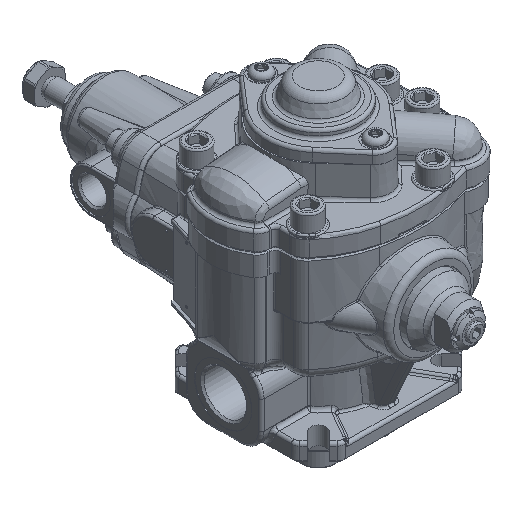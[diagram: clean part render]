
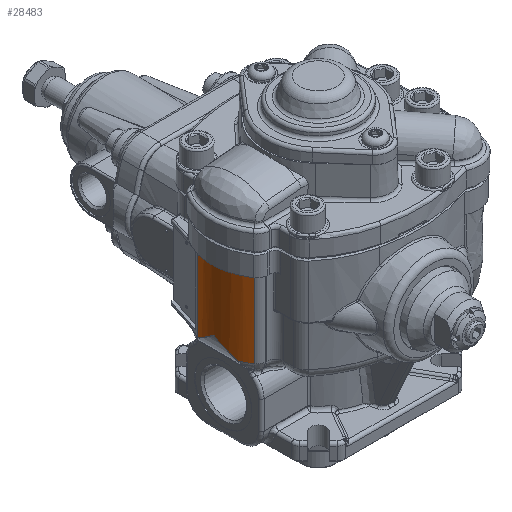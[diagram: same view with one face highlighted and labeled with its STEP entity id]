
A CAD part, isometric view. The second image highlights one B-rep face of the part: STEP entity #28483.
In plain terms, the highlighted cylindrical face has radius 40 mm (diameter 80 mm), a partial arc.
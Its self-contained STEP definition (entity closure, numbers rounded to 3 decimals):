
#2200=FACE_OUTER_BOUND('',#3924,.T.);
#3924=EDGE_LOOP('',(#20251,#20252,#20253,#20254,#20255,#20256,#20257,#20258));
#5324=B_SPLINE_CURVE_WITH_KNOTS('',3,(#46499,#46500,#46501,#46502,#46503,
#46504),.UNSPECIFIED.,.F.,.F.,(4,2,4),(-1.76,0.,0.003),
 .UNSPECIFIED.);
#5325=B_SPLINE_CURVE_WITH_KNOTS('',3,(#46506,#46507,#46508,#46509,#46510,
#46511,#46512,#46513,#46514,#46515,#46516,#46517),.UNSPECIFIED.,.F.,.F.,
(4,2,2,2,2,4),(0.,0.,0.006,0.008,
0.01,0.01),.UNSPECIFIED.);
#5326=B_SPLINE_CURVE_WITH_KNOTS('',3,(#46518,#46519,#46520,#46521,#46522,
#46523),.UNSPECIFIED.,.F.,.F.,(4,2,4),(-1.763,-1.76,
0.),.UNSPECIFIED.);
#6631=CIRCLE('',#30828,40.);
#6654=CIRCLE('',#30872,40.);
#6656=CIRCLE('',#30875,40.);
#8116=LINE('',#45992,#9526);
#8123=LINE('',#46024,#9533);
#9526=VECTOR('',#35614,10.);
#9533=VECTOR('',#35625,10.);
#11448=VERTEX_POINT('',#45976);
#11450=VERTEX_POINT('',#45991);
#11458=VERTEX_POINT('',#46021);
#11459=VERTEX_POINT('',#46023);
#11548=VERTEX_POINT('',#46483);
#11550=VERTEX_POINT('',#46489);
#11551=VERTEX_POINT('',#46497);
#11552=VERTEX_POINT('',#46498);
#14594=EDGE_CURVE('',#11450,#11448,#8116,.T.);
#14604=EDGE_CURVE('',#11458,#11459,#8123,.T.);
#14642=EDGE_CURVE('',#11458,#11450,#6631,.T.);
#14724=EDGE_CURVE('',#11548,#11550,#6654,.T.);
#14727=EDGE_CURVE('',#11551,#11552,#5324,.T.);
#14728=EDGE_CURVE('',#11459,#11551,#6656,.T.);
#14729=EDGE_CURVE('',#11550,#11448,#5325,.F.);
#14730=EDGE_CURVE('',#11552,#11548,#5326,.T.);
#20251=ORIENTED_EDGE('',*,*,#14727,.F.);
#20252=ORIENTED_EDGE('',*,*,#14728,.F.);
#20253=ORIENTED_EDGE('',*,*,#14604,.F.);
#20254=ORIENTED_EDGE('',*,*,#14642,.T.);
#20255=ORIENTED_EDGE('',*,*,#14594,.T.);
#20256=ORIENTED_EDGE('',*,*,#14729,.F.);
#20257=ORIENTED_EDGE('',*,*,#14724,.F.);
#20258=ORIENTED_EDGE('',*,*,#14730,.F.);
#25954=CYLINDRICAL_SURFACE('',#30874,40.);
#28483=ADVANCED_FACE('',(#2200),#25954,.T.);
#30828=AXIS2_PLACEMENT_3D('',#46111,#35695,#35696);
#30872=AXIS2_PLACEMENT_3D('',#46490,#35808,#35809);
#30874=AXIS2_PLACEMENT_3D('',#46496,#35812,#35813);
#30875=AXIS2_PLACEMENT_3D('',#46505,#35814,#35815);
#35614=DIRECTION('',(0.,0.,-1.));
#35625=DIRECTION('',(0.,0.,-1.));
#35695=DIRECTION('center_axis',(0.,0.,-1.));
#35696=DIRECTION('ref_axis',(0.829,-0.559,0.));
#35808=DIRECTION('center_axis',(0.,0.,-1.));
#35809=DIRECTION('ref_axis',(-1.,0.,0.));
#35812=DIRECTION('center_axis',(0.,0.,-1.));
#35813=DIRECTION('ref_axis',(0.829,-0.559,0.));
#35814=DIRECTION('center_axis',(0.,0.,-1.));
#35815=DIRECTION('ref_axis',(-1.,0.,0.));
#45976=CARTESIAN_POINT('',(56.257,4.667,21.862));
#45991=CARTESIAN_POINT('',(56.257,4.667,76.783));
#45992=CARTESIAN_POINT('',(56.257,4.667,91.783));
#46021=CARTESIAN_POINT('',(60.375,-32.16,76.783));
#46023=CARTESIAN_POINT('',(60.375,-32.16,21.783));
#46024=CARTESIAN_POINT('',(60.375,-32.16,91.783));
#46111=CARTESIAN_POINT('Origin',(93.547,-9.807,76.783));
#46483=CARTESIAN_POINT('',(56.251,4.651,21.783));
#46489=CARTESIAN_POINT('',(56.268,4.694,21.783));
#46490=CARTESIAN_POINT('Origin',(93.547,-9.807,21.783));
#46496=CARTESIAN_POINT('Origin',(93.547,-9.807,91.783));
#46497=CARTESIAN_POINT('',(56.251,-24.265,21.783));
#46498=CARTESIAN_POINT('',(53.547,-9.807,31.783));
#46499=CARTESIAN_POINT('Ctrl Pts',(56.251,-24.265,21.783));
#46500=CARTESIAN_POINT('Ctrl Pts',(54.433,-19.574,24.905));
#46501=CARTESIAN_POINT('Ctrl Pts',(53.55,-14.672,28.36));
#46502=CARTESIAN_POINT('Ctrl Pts',(53.547,-9.824,31.771));
#46503=CARTESIAN_POINT('Ctrl Pts',(53.547,-9.815,31.777));
#46504=CARTESIAN_POINT('Ctrl Pts',(53.547,-9.807,31.783));
#46505=CARTESIAN_POINT('Origin',(93.547,-9.807,21.783));
#46506=CARTESIAN_POINT('Ctrl Pts',(56.257,4.667,21.862));
#46507=CARTESIAN_POINT('Ctrl Pts',(56.257,4.667,21.862));
#46508=CARTESIAN_POINT('Ctrl Pts',(56.257,4.667,21.862));
#46509=CARTESIAN_POINT('Ctrl Pts',(56.258,4.667,21.843));
#46510=CARTESIAN_POINT('Ctrl Pts',(56.259,4.67,21.827));
#46511=CARTESIAN_POINT('Ctrl Pts',(56.261,4.677,21.808));
#46512=CARTESIAN_POINT('Ctrl Pts',(56.262,4.68,21.802));
#46513=CARTESIAN_POINT('Ctrl Pts',(56.265,4.686,21.792));
#46514=CARTESIAN_POINT('Ctrl Pts',(56.266,4.689,21.787));
#46515=CARTESIAN_POINT('Ctrl Pts',(56.268,4.694,21.783));
#46516=CARTESIAN_POINT('Ctrl Pts',(56.268,4.694,21.783));
#46517=CARTESIAN_POINT('Ctrl Pts',(56.268,4.694,21.783));
#46518=CARTESIAN_POINT('Ctrl Pts',(53.547,-9.807,31.783));
#46519=CARTESIAN_POINT('Ctrl Pts',(53.547,-9.799,31.777));
#46520=CARTESIAN_POINT('Ctrl Pts',(53.547,-9.79,31.771));
#46521=CARTESIAN_POINT('Ctrl Pts',(53.55,-4.942,28.36));
#46522=CARTESIAN_POINT('Ctrl Pts',(54.433,-0.04,
24.905));
#46523=CARTESIAN_POINT('Ctrl Pts',(56.251,4.651,21.783));
